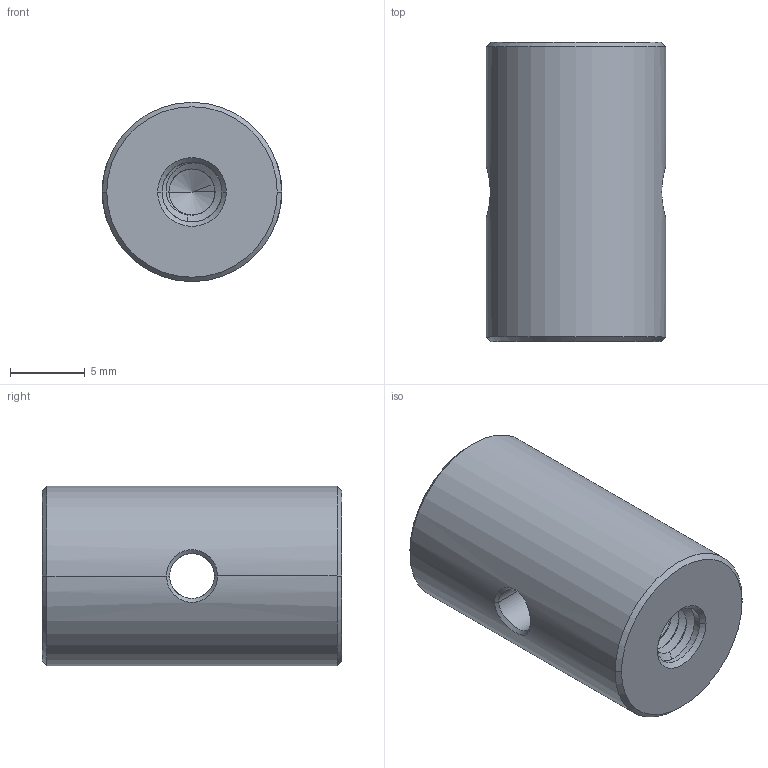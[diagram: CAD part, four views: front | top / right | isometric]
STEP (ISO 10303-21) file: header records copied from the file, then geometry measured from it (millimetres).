
FILE_DESCRIPTION((''),'2;1');
FILE_NAME('PCA2-S2','2020-12-11T',('Administrator'),(''),'CREO PARAMETRIC BY PTC INC, 2015290','CREO PARAMETRIC BY PTC INC, 2015290','');
FILE_SCHEMA(('CONFIG_CONTROL_DESIGN'));
Length unit declared in the file: millimetre
Products named in the file (1): PCA2-S2
Bounding box: 12 x 20 x 12 mm (x, y, z)
Volume: 2017 mm3; surface area: 1317.5 mm2
Topology: 1 solids, 1 shells, 74 faces, 200 edges, 124 vertices
Faces by surface type: cylinder 40, bspline 20, cone 12, plane 2
Entity records: 6230 total; most frequent: CARTESIAN_POINT 4620, ORIENTED_EDGE 392, DIRECTION 214, EDGE_CURVE 196, VERTEX_POINT 124, B_SPLINE_CURVE_WITH_KNOTS 108, EDGE_LOOP 76, FACE_OUTER_BOUND 74
